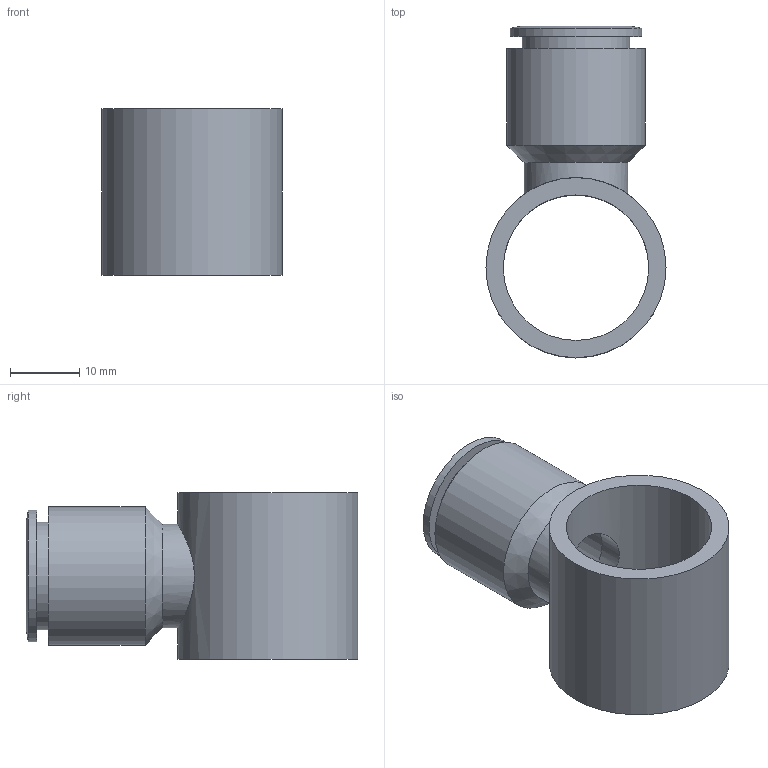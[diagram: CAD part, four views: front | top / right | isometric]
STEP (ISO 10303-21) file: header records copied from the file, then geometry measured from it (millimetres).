
FILE_DESCRIPTION((''),'2;1');
FILE_NAME('C:\Documents and Settings\rivolro1\Documenti\copia di Raccordi\PLASTICA\T13XXXX\T131212.stp','2007-10-30T17:37:52',('Rivolro1'),(''),'Autodesk Inventor 2008','Autodesk Inventor 2008','');
FILE_SCHEMA(('AUTOMOTIVE_DESIGN { 1 0 10303 214 1 1 1 1 }'));
Length unit declared in the file: millimetre
Products named in the file (1): T131212
Bounding box: 26 x 47.9 x 24 mm (x, y, z)
Volume: 7804.7 mm3; surface area: 6399.9 mm2
Topology: 1 solids, 1 shells, 16 faces, 27 edges, 17 vertices
Faces by surface type: cylinder 7, plane 5, bspline 2, cone 2
Full cylindrical faces by diameter (mm): 10.3 x1, 15 x1, 15.5 x1, 19 x1, 20 x1, 21 x1, 26 x1
Entity records: 550 total; most frequent: CARTESIAN_POINT 230, DIRECTION 60, ORIENTED_EDGE 34, EDGE_LOOP 34, AXIS2_PLACEMENT_3D 30, FACE_BOUND 18, VERTEX_POINT 17, EDGE_CURVE 17
